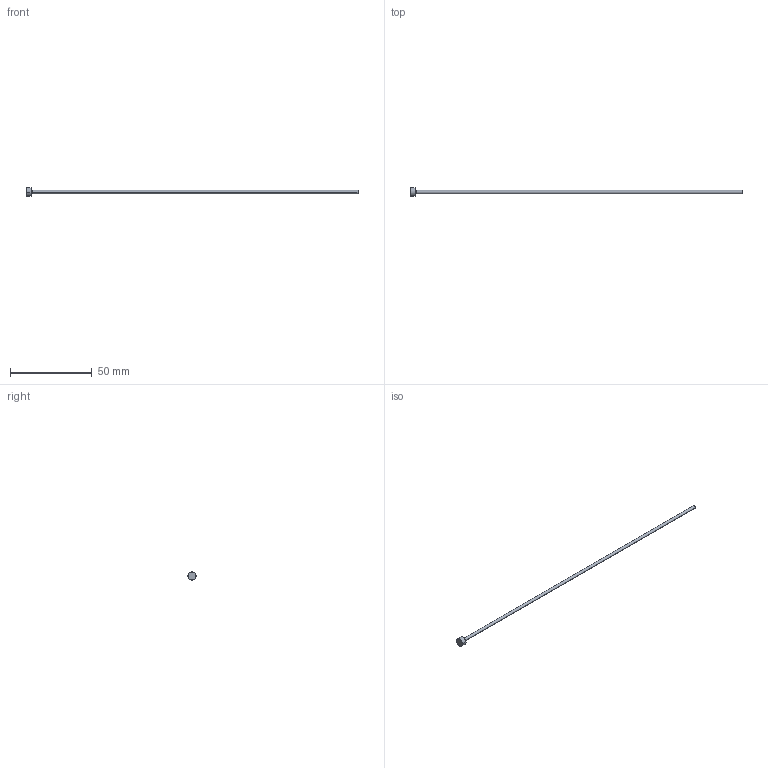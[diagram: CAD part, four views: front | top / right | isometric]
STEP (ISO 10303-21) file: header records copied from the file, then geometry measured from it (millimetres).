
FILE_DESCRIPTION (( 'STEP AP214' ), '1' );
FILE_NAME ('P6-8.STEP', '2020-03-11T16:26:57', ( '' ), ( '' ), 'SwSTEP 2.0', 'SolidWorks 2018', '' );
FILE_SCHEMA (( 'AUTOMOTIVE_DESIGN' ));
Length unit declared in the file: inch
Products named in the file (1): P6-8
Bounding box: 203.2 x 5.16 x 5.16 mm (x, y, z)
Volume: 681 mm3; surface area: 1331.7 mm2
Topology: 1 solids, 1 shells, 13 faces, 24 edges, 14 vertices
Faces by surface type: cone 4, cylinder 4, plane 3, torus 2
Entity records: 366 total; most frequent: DIRECTION 68, CARTESIAN_POINT 52, ORIENTED_EDGE 48, AXIS2_PLACEMENT_3D 30, EDGE_CURVE 24, CIRCLE 16, EDGE_LOOP 14, VERTEX_POINT 14
